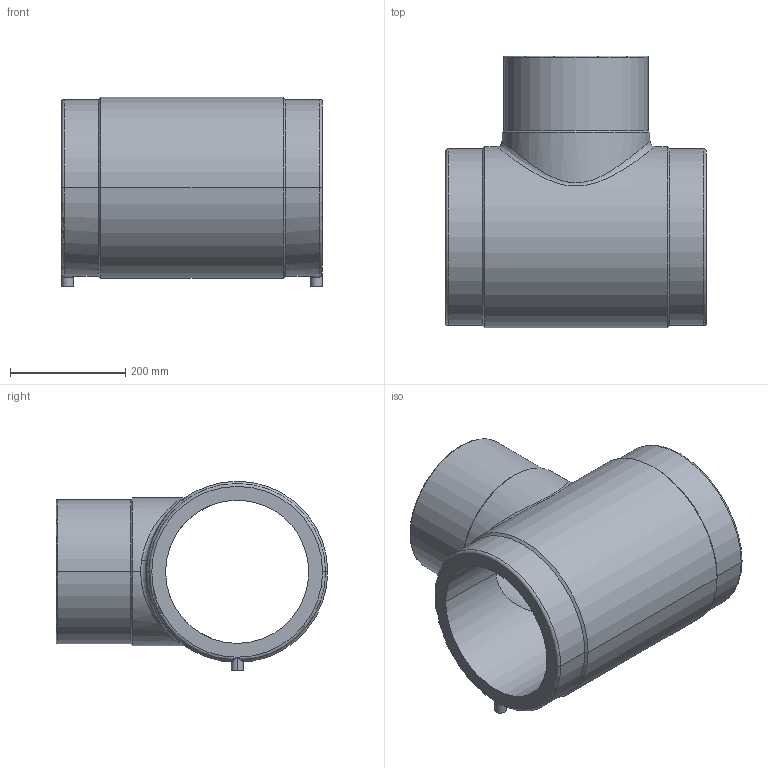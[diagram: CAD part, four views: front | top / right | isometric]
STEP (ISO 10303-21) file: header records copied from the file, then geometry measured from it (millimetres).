
FILE_DESCRIPTION (( 'STEP AP214' ), '1' );
FILE_NAME ('ETBKHA250.STEP', '2020-04-24T10:48:47', ( '' ), ( '' ), 'SwSTEP 2.0', 'SolidWorks 2019', '' );
FILE_SCHEMA (( 'AUTOMOTIVE_DESIGN' ));
Length unit declared in the file: millimetre
Products named in the file (1): ETBKHA250
Bounding box: 452 x 470.5 x 328.5 mm (x, y, z)
Volume: 14531729 mm3; surface area: 1055291.9 mm2
Topology: 1 solids, 1 shells, 61 faces, 136 edges, 76 vertices
Faces by surface type: cylinder 26, cone 10, plane 9, bspline 8, torus 8
Entity records: 3858 total; most frequent: CARTESIAN_POINT 2518, DIRECTION 286, ORIENTED_EDGE 264, EDGE_CURVE 132, AXIS2_PLACEMENT_3D 124, VERTEX_POINT 76, CIRCLE 70, EDGE_LOOP 68
